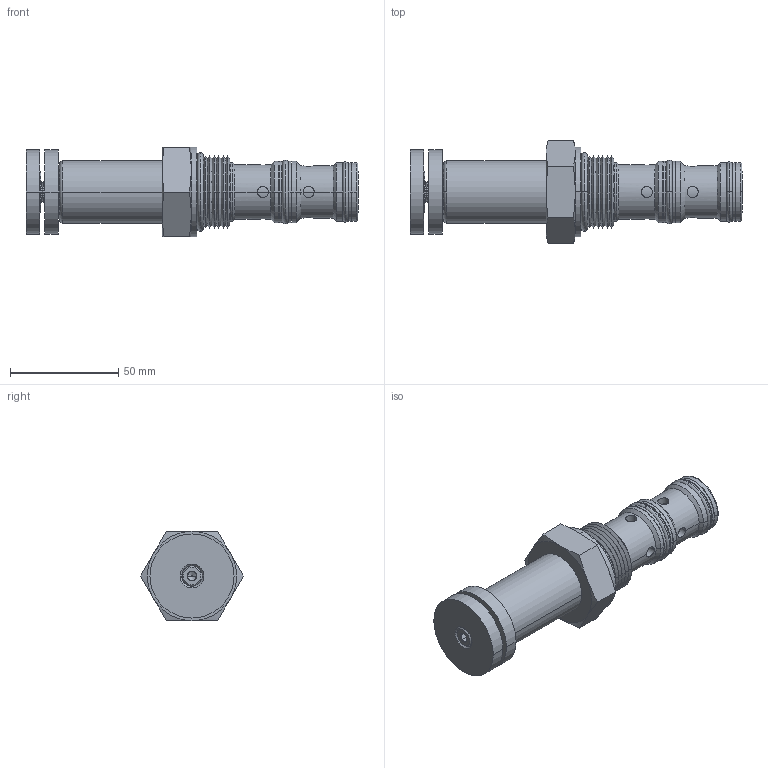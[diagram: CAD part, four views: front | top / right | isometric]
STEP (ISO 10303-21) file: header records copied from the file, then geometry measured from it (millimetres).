
FILE_DESCRIPTION((''),'2;1');
FILE_NAME('U:\Solid model CD\Solid model full\Mechanical\STEP\SKPRP0K-3D Full.stp','2008-07-29T10:01:20',('Dan'),(''),'Autodesk Inventor 9','Autodesk Inventor 9','');
FILE_SCHEMA(('AUTOMOTIVE_DESIGN { 1 0 10303 214 1 1 1 1 }'));
Length unit declared in the file: inch
Products named in the file (10): SKPRP0K-3D Full; SKPRP0K-3D Full1; SKPRP0K-3D Full2; SKPRP0K-3D Full3; SKPRP0K-3D Full4; SKPRP0K-3D Full5; SKPRP0K-3D Full6; SKPRP0K-3D Full7; SKPRP0K-3D Full8; SKPRP0K-3D Full9
Assembly tree (9 placements, depth 2):
  SKPRP0K-3D Full
    SKPRP0K-3D Full1
    SKPRP0K-3D Full2
    SKPRP0K-3D Full3
    SKPRP0K-3D Full4
    SKPRP0K-3D Full5
    SKPRP0K-3D Full6
    SKPRP0K-3D Full7
    SKPRP0K-3D Full8
    SKPRP0K-3D Full9
Bounding box: 153.59 x 47.66 x 41.27 mm (x, y, z)
Volume: 110740.8 mm3; surface area: 30600.1 mm2
Topology: 10 solids, 10 shells, 279 faces, 598 edges, 352 vertices
Faces by surface type: cone 124, cylinder 88, plane 49, torus 18
Entity records: 8205 total; most frequent: CARTESIAN_POINT 1920, DIRECTION 1379, ORIENTED_EDGE 1196, EDGE_CURVE 598, AXIS2_PLACEMENT_3D 587, VERTEX_POINT 352, EDGE_LOOP 308, CIRCLE 289
